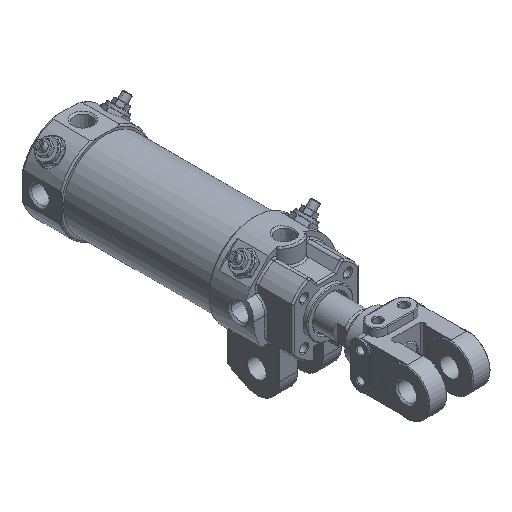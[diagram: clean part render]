
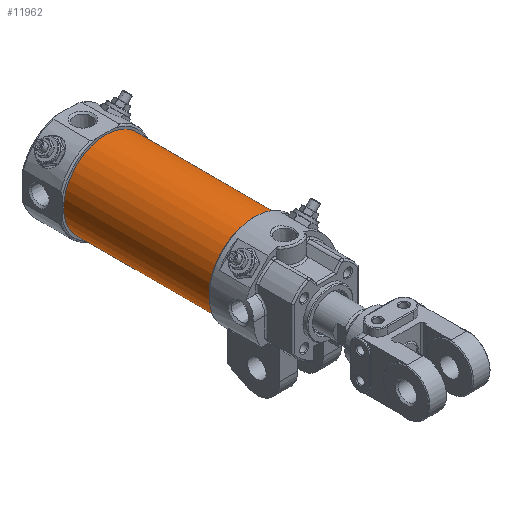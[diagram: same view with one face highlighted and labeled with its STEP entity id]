
A CAD part, isometric view. The second image highlights one B-rep face of the part: STEP entity #11962.
In plain terms, the highlighted cylindrical face has radius 27.5 mm (diameter 55 mm), a full revolution.
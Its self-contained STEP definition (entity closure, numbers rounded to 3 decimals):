
#4051=CARTESIAN_POINT('',(27.5,146.0,0.));
#4052=VERTEX_POINT('',#4051);
#4053=CARTESIAN_POINT('',(0.,146.0,0.));
#4054=DIRECTION('',(0.0,-1.0,0.0));
#4055=DIRECTION('',(-1.0,0.0,0.0));
#4056=AXIS2_PLACEMENT_3D('',#4053,#4054,#4055);
#4057=CIRCLE('',#4056,27.5);
#4058=EDGE_CURVE('',#4052,#4052,#4057,.T.);
#11939=CARTESIAN_POINT('',(27.5,50.,0.));
#11940=VERTEX_POINT('',#11939);
#11941=CARTESIAN_POINT('',(0.,50.,0.));
#11942=DIRECTION('',(0.0,-1.0,0.0));
#11943=DIRECTION('',(-1.0,0.0,0.0));
#11944=AXIS2_PLACEMENT_3D('',#11941,#11942,#11943);
#11945=CIRCLE('',#11944,27.5);
#11946=EDGE_CURVE('',#11940,#11940,#11945,.T.);
#11951=CARTESIAN_POINT('',(0.,50.,0.));
#11952=DIRECTION('',(0.0,1.0,0.));
#11953=DIRECTION('',(-1.0,0.0,0.0));
#11954=AXIS2_PLACEMENT_3D('',#11951,#11952,#11953);
#11955=CYLINDRICAL_SURFACE('',#11954,27.5);
#11956=ORIENTED_EDGE('',*,*,#4058,.T.);
#11957=EDGE_LOOP('',(#11956));
#11958=FACE_OUTER_BOUND('',#11957,.T.);
#11959=ORIENTED_EDGE('',*,*,#11946,.F.);
#11960=EDGE_LOOP('',(#11959));
#11961=FACE_BOUND('',#11960,.T.);
#11962=ADVANCED_FACE('',(#11958,#11961),#11955,.T.);
